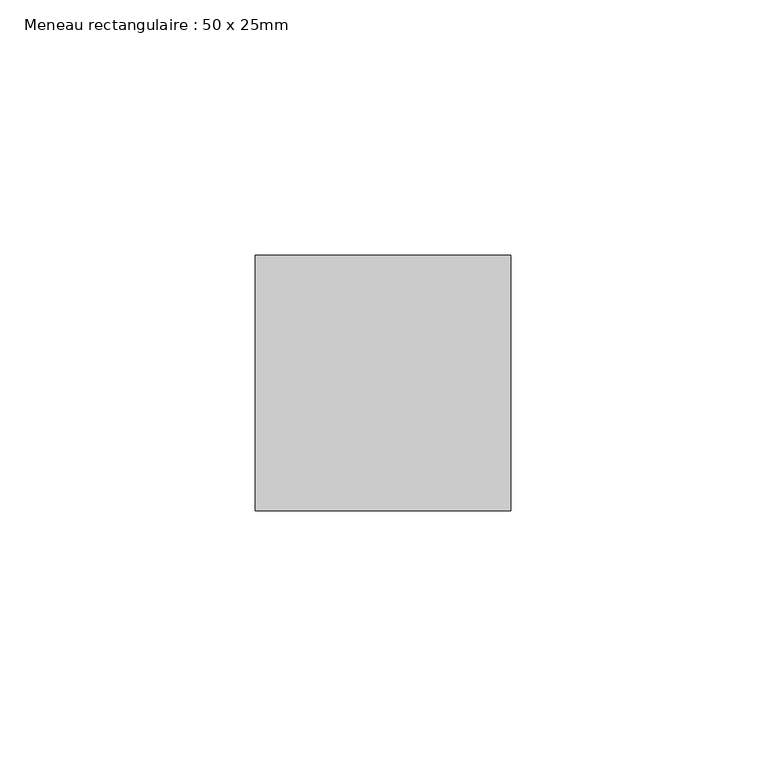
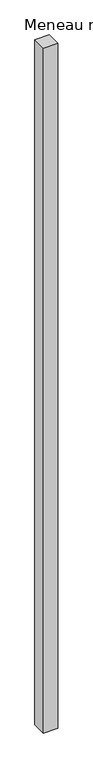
"""IFC4 building model written with IfcOpenShell, lengths in millimetres: member geometry, Meneau rectangulaire : 50 x 25mm."""

from ifc_helpers import new_model, si_unit, frame, origin, place, context, project, spatial, polyline, outline, extrude, source, transform, mapped, element, save


def meneau_rectangulaire_50_x_25mm_8bc60e87(model_context):
    return source(origin(), model_context, "Body", "SweptSolid", [
        extrude(outline(polyline([(0.0, 0.0), (0.0, -50.0), (-50.0, -50.0), (-50.0, 0.0), (0.0, 0.0)])), frame((0.0, 0.0, -2486.0), z_axis=(0.0, 0.0, 1.0), x_axis=(1.0, 0.0, 0.0)), (0.0, 0.0, 1.0), 2486.0),
    ])


if __name__ == "__main__":
    model = new_model("IFC4")
    model_context = context("Model", 3, world=origin())
    ifc_project = project(units=[si_unit("LENGTHUNIT", "METRE", prefix="MILLI")], contexts=[model_context])
    site = spatial("IfcSite", under=ifc_project)
    building = spatial("IfcBuilding", under=site)
    placement = place(None, origin())
    meneau_rectangulaire_50_x_25mm_shape = meneau_rectangulaire_50_x_25mm_8bc60e87(model_context)
    element("IfcMember", 1, ObjectType="Meneau rectangulaire : 50 x 25mm", at=placement, inside=building, context=model_context, shape_type="MappedRepresentation", body=[
        mapped(meneau_rectangulaire_50_x_25mm_shape, transform((0.0, 0.0, 0.0), x_axis=(1.0, 0.0, 0.0), y_axis=(0.0, 1.0, 0.0), z_axis=(0.0, 0.0, 1.0))),
    ])
    save(model, "model.ifc")
